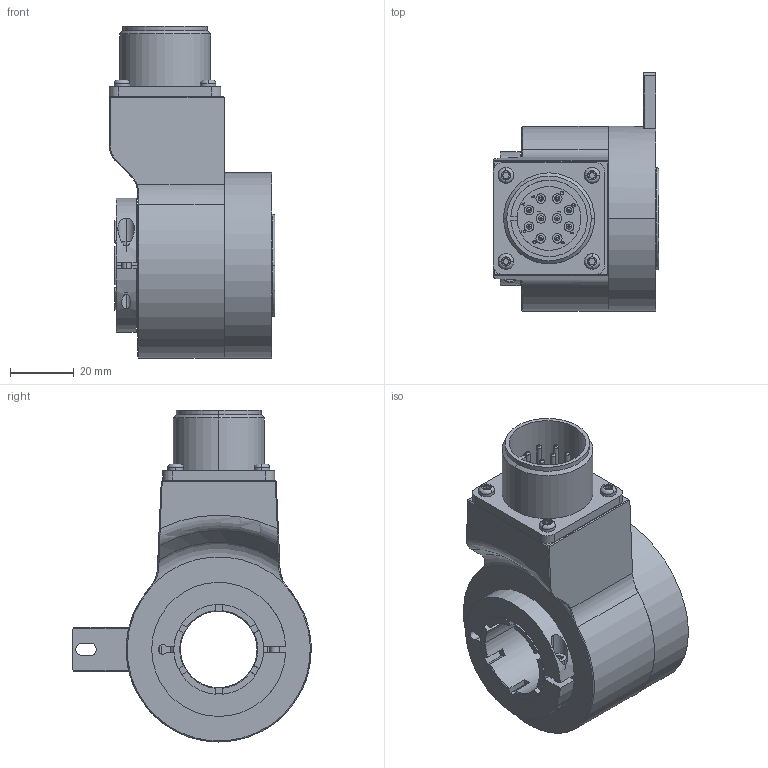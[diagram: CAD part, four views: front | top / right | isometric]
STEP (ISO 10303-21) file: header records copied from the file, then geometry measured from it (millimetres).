
FILE_DESCRIPTION (( 'STEP AP203' ), '1' );
FILE_NAME ('K58I.OXX.XXXXX.XC17524.XXRCJ.step', '2025-12-03T07:58:30', ( '' ), ( '' ), 'SwSTEP 2.0', 'SolidWorks 2021', '' );
FILE_SCHEMA (( 'CONFIG_CONTROL_DESIGN' ));
Length unit declared in the file: millimetre
Products named in the file (1): K58I.OXX.XXXXX.XC17524.XXRCJ
Bounding box: 51.9 x 74.75 x 104 mm (x, y, z)
Volume: 139839.1 mm3; surface area: 48377.7 mm2
Topology: 7 solids, 7 shells, 577 faces, 1445 edges, 927 vertices
Faces by surface type: plane 234, cylinder 217, bspline 55, cone 45, torus 26
Entity records: 21423 total; most frequent: CARTESIAN_POINT 7574, ORIENTED_EDGE 2866, DIRECTION 2855, EDGE_CURVE 1433, AXIS2_PLACEMENT_3D 1049, VERTEX_POINT 927, LINE 757, VECTOR 757
